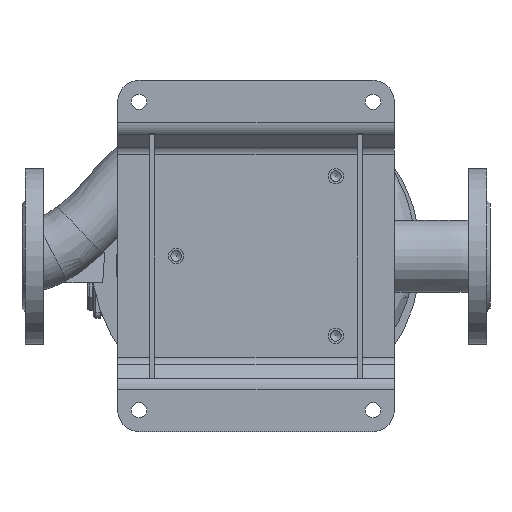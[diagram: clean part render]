
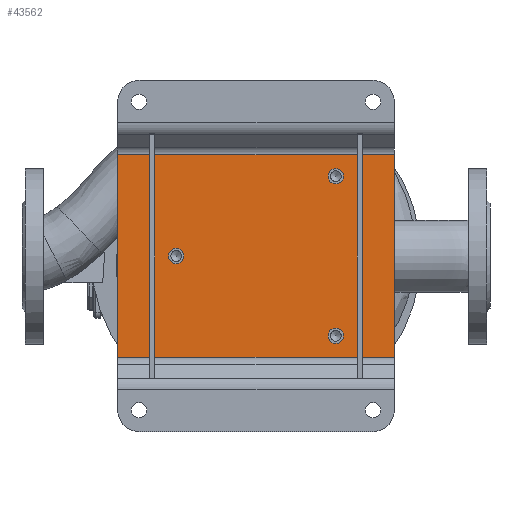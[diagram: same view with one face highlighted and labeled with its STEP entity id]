
A CAD part, top view. The second image highlights one B-rep face of the part: STEP entity #43562.
In plain terms, the highlighted planar face has unit normal (0, 0, 1) as drawn and (0, -1, 0) by its records, which use the part's own axes.
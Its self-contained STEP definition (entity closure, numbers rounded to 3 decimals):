
#1361 = ORIENTED_EDGE ( 'NONE', *, *, #4544, .F. ) ;
#1405 = VERTEX_POINT ( 'NONE', #17083 ) ;
#1675 = FACE_BOUND ( 'NONE', #50925, .T. ) ;
#3534 = EDGE_LOOP ( 'NONE', ( #35700, #12548, #1361, #40359 ) ) ;
#4544 = EDGE_CURVE ( 'NONE', #7725, #62217, #9011, .T. ) ;
#6645 = EDGE_CURVE ( 'NONE', #62217, #79896, #72561, .T. ) ;
#7355 = DIRECTION ( 'NONE',  ( 0., -1., 0. ) ) ;
#7725 = VERTEX_POINT ( 'NONE', #85193 ) ;
#9011 = LINE ( 'NONE', #66299, #64288 ) ;
#9320 = CARTESIAN_POINT ( 'NONE',  ( -75., -5., 75. ) ) ;
#9754 = CARTESIAN_POINT ( 'NONE',  ( 0., -5., -82.25 ) ) ;
#10741 = EDGE_CURVE ( 'NONE', #34756, #34756, #75555, .T. ) ;
#12548 = ORIENTED_EDGE ( 'NONE', *, *, #6645, .F. ) ;
#13506 = DIRECTION ( 'NONE',  ( 0., 0., -1. ) ) ;
#15582 = EDGE_LOOP ( 'NONE', ( #24590 ) ) ;
#16511 = ORIENTED_EDGE ( 'NONE', *, *, #28975, .F. ) ;
#16705 = LINE ( 'NONE', #24996, #75786 ) ;
#17083 = CARTESIAN_POINT ( 'NONE',  ( 95., -5., -130. ) ) ;
#21602 = DIRECTION ( 'NONE',  ( 0., 0., -1. ) ) ;
#23179 = VERTEX_POINT ( 'NONE', #9754 ) ;
#23235 = EDGE_CURVE ( 'NONE', #79896, #1405, #16705, .T. ) ;
#24590 = ORIENTED_EDGE ( 'NONE', *, *, #10741, .F. ) ;
#24996 = CARTESIAN_POINT ( 'NONE',  ( 95., -5., 130. ) ) ;
#27362 = CARTESIAN_POINT ( 'NONE',  ( 75., -5., 67.75 ) ) ;
#28975 = EDGE_CURVE ( 'NONE', #23179, #23179, #49646, .T. ) ;
#30054 = DIRECTION ( 'NONE',  ( 1., 0., 0. ) ) ;
#31918 = CARTESIAN_POINT ( 'NONE',  ( -75., -5., 67.75 ) ) ;
#32036 = AXIS2_PLACEMENT_3D ( 'NONE', #50685, #58051, #21602 ) ;
#33414 = DIRECTION ( 'NONE',  ( 0., -1., 0. ) ) ;
#33459 = EDGE_CURVE ( 'NONE', #1405, #7725, #90223, .T. ) ;
#34756 = VERTEX_POINT ( 'NONE', #27362 ) ;
#35700 = ORIENTED_EDGE ( 'NONE', *, *, #23235, .F. ) ;
#37200 = DIRECTION ( 'NONE',  ( 0., 0., 1. ) ) ;
#38842 = VERTEX_POINT ( 'NONE', #31918 ) ;
#40359 = ORIENTED_EDGE ( 'NONE', *, *, #33459, .F. ) ;
#40796 = CARTESIAN_POINT ( 'NONE',  ( 75., -5., 75. ) ) ;
#40879 = VECTOR ( 'NONE', #70813, 1000. ) ;
#43562 = ADVANCED_FACE ( 'NONE', ( #64988, #1675, #65456, #50217 ), #70591, .T. ) ;
#43787 = AXIS2_PLACEMENT_3D ( 'NONE', #40796, #33414, #13506 ) ;
#44773 = CARTESIAN_POINT ( 'NONE',  ( -95., -5., 130. ) ) ;
#44893 = DIRECTION ( 'NONE',  ( 0., 0., -1. ) ) ;
#49646 = CIRCLE ( 'NONE', #68777, 7.25 ) ;
#50217 = FACE_OUTER_BOUND ( 'NONE', #3534, .T. ) ;
#50685 = CARTESIAN_POINT ( 'NONE',  ( 0., -5., 0. ) ) ;
#50692 = EDGE_LOOP ( 'NONE', ( #85542 ) ) ;
#50925 = EDGE_LOOP ( 'NONE', ( #16511 ) ) ;
#51366 = EDGE_CURVE ( 'NONE', #38842, #38842, #69500, .T. ) ;
#55022 = CARTESIAN_POINT ( 'NONE',  ( 95., -5., 130. ) ) ;
#57386 = DIRECTION ( 'NONE',  ( 0., 0., -1. ) ) ;
#57696 = DIRECTION ( 'NONE',  ( 0., 0., -1. ) ) ;
#58051 = DIRECTION ( 'NONE',  ( 0., -1., 0. ) ) ;
#58298 = DIRECTION ( 'NONE',  ( 0., -1., 0. ) ) ;
#62217 = VERTEX_POINT ( 'NONE', #44773 ) ;
#63393 = CARTESIAN_POINT ( 'NONE',  ( -95., -5., -130. ) ) ;
#64288 = VECTOR ( 'NONE', #37200, 1000. ) ;
#64988 = FACE_BOUND ( 'NONE', #15582, .T. ) ;
#65456 = FACE_BOUND ( 'NONE', #50692, .T. ) ;
#66299 = CARTESIAN_POINT ( 'NONE',  ( -95., -5., 130. ) ) ;
#66997 = CARTESIAN_POINT ( 'NONE',  ( -95., -5., 130. ) ) ;
#68777 = AXIS2_PLACEMENT_3D ( 'NONE', #70240, #7355, #57696 ) ;
#69500 = CIRCLE ( 'NONE', #76877, 7.25 ) ;
#70240 = CARTESIAN_POINT ( 'NONE',  ( 0., -5., -75. ) ) ;
#70591 = PLANE ( 'NONE',  #32036 ) ;
#70813 = DIRECTION ( 'NONE',  ( -1., 0., 0. ) ) ;
#72561 = LINE ( 'NONE', #66997, #80598 ) ;
#75555 = CIRCLE ( 'NONE', #43787, 7.25 ) ;
#75786 = VECTOR ( 'NONE', #44893, 1000. ) ;
#76877 = AXIS2_PLACEMENT_3D ( 'NONE', #9320, #58298, #57386 ) ;
#79896 = VERTEX_POINT ( 'NONE', #55022 ) ;
#80598 = VECTOR ( 'NONE', #30054, 1000. ) ;
#85193 = CARTESIAN_POINT ( 'NONE',  ( -95., -5., -130. ) ) ;
#85542 = ORIENTED_EDGE ( 'NONE', *, *, #51366, .F. ) ;
#90223 = LINE ( 'NONE', #63393, #40879 ) ;
